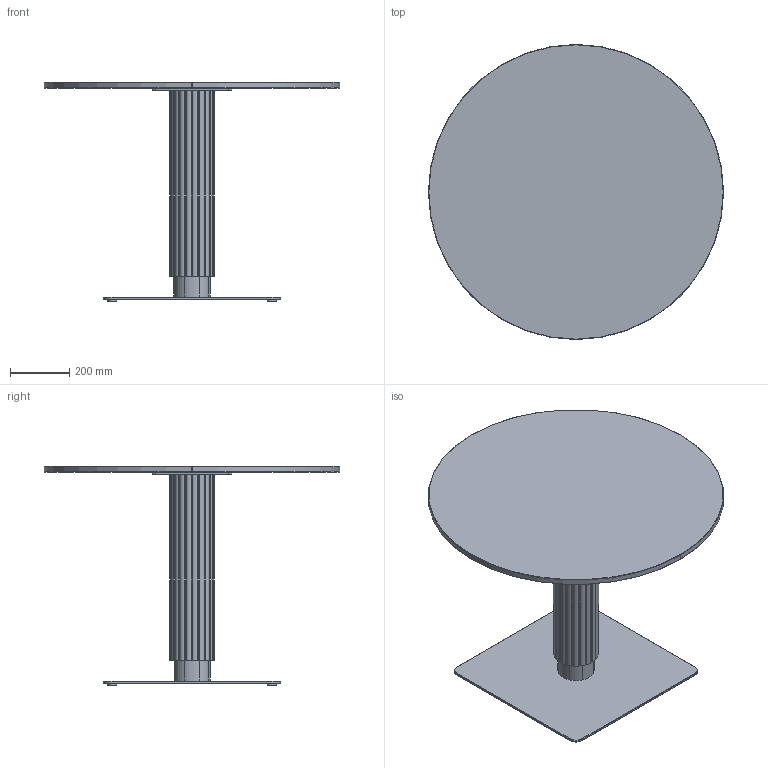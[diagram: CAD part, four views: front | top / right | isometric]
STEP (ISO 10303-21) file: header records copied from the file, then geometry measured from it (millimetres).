
FILE_DESCRIPTION( ('This file contains a STEP AP42 implementation' ,'as created by ZW3D STEP Interface translator.') ,'2;1' );
FILE_NAME( 'God - B_Carré - F1 - M1 - 1000 x 1000 x 750.stp' ,'24 912. 92157', (''), ('ZWCAD Software Co.'), 'Version 1.0', 'ZW3D to STEP translator', '' );
FILE_SCHEMA(('AUTOMOTIVE_DESIGN { 1 0 10303 214 1 1 1 1 }'));
Length unit declared in the file: millimetre
Products named in the file (15): 0; PIED BISTROT PARAMETRIQUE_; CROIX ACIER 370 V.02_; CRX-X370-02_; SOCLE ACIER L 600x600 V.02_; SCL-R600-02_; PLA-R30A-01_; PLA-R30A-01; COLONNE ACIER Ø48.5 V.02_; TUB-D048-02_; PLA-R48A-01_; Colonne GODRON H700_; WUERTH 0276063020 Euro-screw 6.3x2 Verzinkt_; PLATEAU BISTROT PARAMETRIQUE_; insert_m6_13_
Assembly tree (23 placements, depth 3):
  0
  PIED BISTROT PARAMETRIQUE_
    CROIX ACIER 370 V.02_
      CRX-X370-02_
    SOCLE ACIER L 600x600 V.02_
      SCL-R600-02_
      PLA-R30A-01_
      PLA-R30A-01  x3
    COLONNE ACIER Ø48.5 V.02_
      TUB-D048-02_
      PLA-R48A-01_  x2
    Colonne GODRON H700_
    WUERTH 0276063020 Euro-screw 6.3x2 Verzinkt_
    PLATEAU BISTROT PARAMETRIQUE_
      insert_m6_13_  x8
Bounding box: 1000 x 1000 x 744 mm (x, y, z)
Volume: 29638671.8 mm3; surface area: 3780235.8 mm2
Topology: 27 solids, 27 shells, 669 faces, 1662 edges, 1062 vertices
Faces by surface type: plane 302, cylinder 192, bspline 121, cone 53, torus 1
Full cylindrical faces by diameter (mm): 4.88 x1, 6 x8, 6.3 x1, 8 x45, 12 x2, 14 x2, 30 x4, 44.5 x3, 48.5 x1
Entity records: 16810 total; most frequent: CARTESIAN_POINT 4133, DIRECTION 2344, ORIENTED_EDGE 2338, EDGE_CURVE 1169, AXIS2_PLACEMENT_3D 829, VERTEX_POINT 756, VECTOR 686, LINE 686
